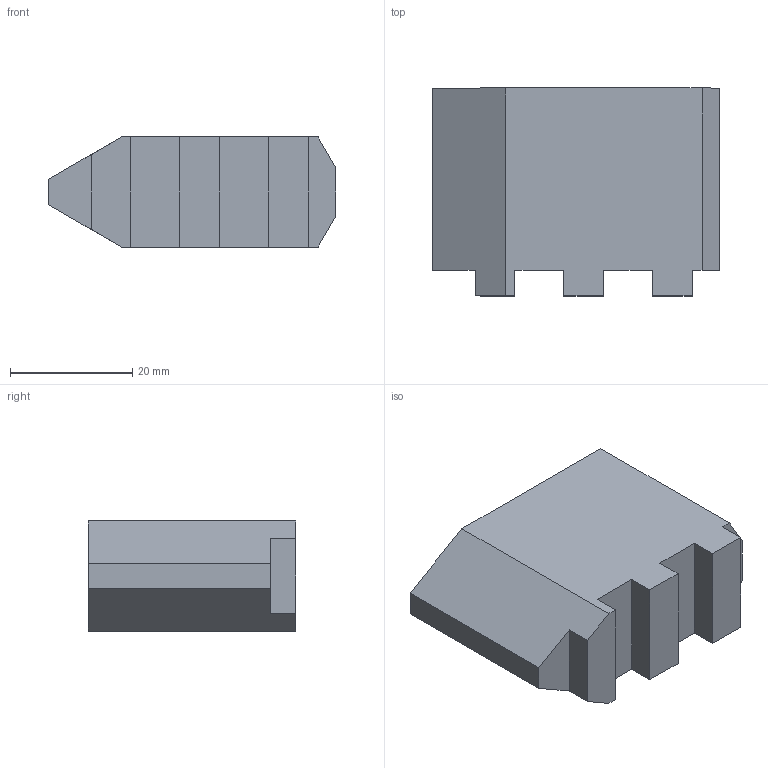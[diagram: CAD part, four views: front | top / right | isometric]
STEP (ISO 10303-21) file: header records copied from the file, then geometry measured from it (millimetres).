
FILE_DESCRIPTION (( 'STEP AP214' ), '1' );
FILE_NAME ('59616-72.STEP', '2022-04-21T11:16:53', ( '' ), ( '' ), 'SwSTEP 2.0', 'SolidWorks 2021', '' );
FILE_SCHEMA (( 'AUTOMOTIVE_DESIGN' ));
Length unit declared in the file: millimetre
Products named in the file (1): 59616-72
Bounding box: 47 x 34 x 18 mm (x, y, z)
Volume: 23716.7 mm3; surface area: 5542.3 mm2
Topology: 1 solids, 1 shells, 22 faces, 60 edges, 40 vertices
Faces by surface type: plane 22
Entity records: 718 total; most frequent: CARTESIAN_POINT 123, ORIENTED_EDGE 120, DIRECTION 106, EDGE_CURVE 60, VECTOR 60, LINE 60, VERTEX_POINT 40, AXIS2_PLACEMENT_3D 23
